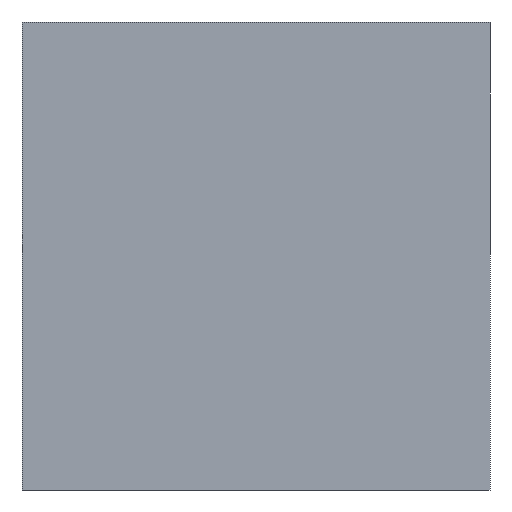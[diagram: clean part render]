
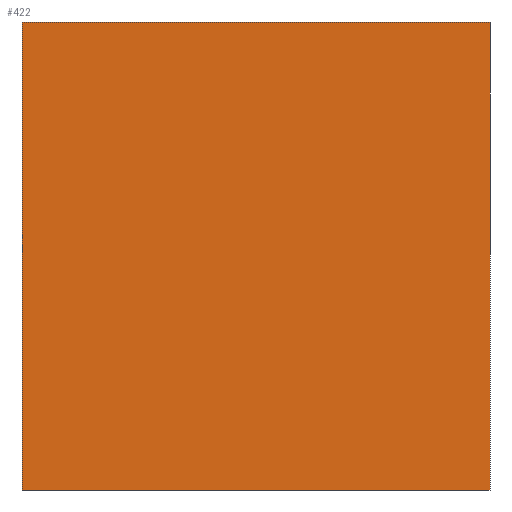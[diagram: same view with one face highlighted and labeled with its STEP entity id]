
A CAD part, front view. The second image highlights one B-rep face of the part: STEP entity #422.
In plain terms, the highlighted planar face has unit normal (0, -1, 0).
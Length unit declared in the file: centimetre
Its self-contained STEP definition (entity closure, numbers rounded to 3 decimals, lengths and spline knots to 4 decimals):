
#1 = VECTOR ( 'NONE', #77, 100. ) ;
#17 = ORIENTED_EDGE ( 'NONE', *, *, #60, .F. ) ;
#29 = CARTESIAN_POINT ( 'NONE',  ( 0., 0., 1000. ) ) ;
#33 = DIRECTION ( 'NONE',  ( 0., 0., -1. ) ) ;
#60 = EDGE_CURVE ( 'NONE', #180, #340, #212, .T. ) ;
#77 = DIRECTION ( 'NONE',  ( 0., 0., -1. ) ) ;
#115 = DIRECTION ( 'NONE',  ( 0., 1., 0. ) ) ;
#123 = EDGE_CURVE ( 'NONE', #418, #340, #169, .T. ) ;
#134 = CARTESIAN_POINT ( 'NONE',  ( 1000., 0., 0. ) ) ;
#169 = LINE ( 'NONE', #201, #279 ) ;
#180 = VERTEX_POINT ( 'NONE', #408 ) ;
#191 = ORIENTED_EDGE ( 'NONE', *, *, #409, .T. ) ;
#201 = CARTESIAN_POINT ( 'NONE',  ( 0., 0., 0. ) ) ;
#212 = LINE ( 'NONE', #251, #1 ) ;
#226 = CARTESIAN_POINT ( 'NONE',  ( 0., 0., 1000. ) ) ;
#230 = ORIENTED_EDGE ( 'NONE', *, *, #372, .F. ) ;
#251 = CARTESIAN_POINT ( 'NONE',  ( 1000., 0., 1000. ) ) ;
#273 = PLANE ( 'NONE',  #518 ) ;
#279 = VECTOR ( 'NONE', #490, 100. ) ;
#298 = VECTOR ( 'NONE', #512, 100. ) ;
#340 = VERTEX_POINT ( 'NONE', #134 ) ;
#354 = LINE ( 'NONE', #226, #363 ) ;
#357 = FACE_OUTER_BOUND ( 'NONE', #524, .T. ) ;
#361 = CARTESIAN_POINT ( 'NONE',  ( 0., 0., 0. ) ) ;
#363 = VECTOR ( 'NONE', #33, 100. ) ;
#372 = EDGE_CURVE ( 'NONE', #383, #180, #436, .T. ) ;
#383 = VERTEX_POINT ( 'NONE', #397 ) ;
#397 = CARTESIAN_POINT ( 'NONE',  ( 0., 0., 1000. ) ) ;
#408 = CARTESIAN_POINT ( 'NONE',  ( 1000., 0., 1000. ) ) ;
#409 = EDGE_CURVE ( 'NONE', #383, #418, #354, .T. ) ;
#418 = VERTEX_POINT ( 'NONE', #361 ) ;
#422 = ADVANCED_FACE ( 'NONE', ( #357 ), #273, .F. ) ;
#436 = LINE ( 'NONE', #523, #298 ) ;
#463 = ORIENTED_EDGE ( 'NONE', *, *, #123, .T. ) ;
#490 = DIRECTION ( 'NONE',  ( 1., 0., 0. ) ) ;
#512 = DIRECTION ( 'NONE',  ( 1., 0., 0. ) ) ;
#518 = AXIS2_PLACEMENT_3D ( 'NONE', #29, #115, #525 ) ;
#523 = CARTESIAN_POINT ( 'NONE',  ( 0., 0., 1000. ) ) ;
#524 = EDGE_LOOP ( 'NONE', ( #463, #17, #230, #191 ) ) ;
#525 = DIRECTION ( 'NONE',  ( 0., 0., 1. ) ) ;
